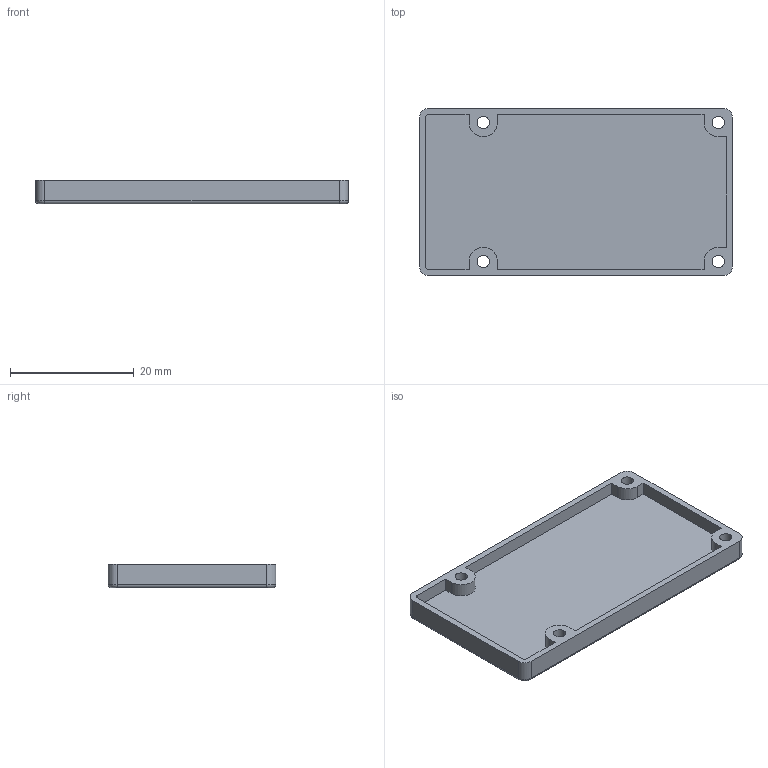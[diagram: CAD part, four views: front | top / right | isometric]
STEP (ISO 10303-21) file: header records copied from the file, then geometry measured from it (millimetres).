
FILE_DESCRIPTION (( 'STEP AP203' ), '1' );
FILE_NAME ('H-EXT1.STEP', '2023-07-04T11:35:07', ( 'shan123' ), ( 'Razer' ), 'SwSTEP 2.0', 'SolidWorks 2018', '' );
FILE_SCHEMA (( 'CONFIG_CONTROL_DESIGN' ));
Length unit declared in the file: millimetre
Products named in the file (1): H-EXT1
Bounding box: 50.6 x 27.1 x 3.8 mm (x, y, z)
Volume: 2579 mm3; surface area: 3698.8 mm2
Topology: 1 solids, 1 shells, 47 faces, 124 edges, 80 vertices
Faces by surface type: cylinder 22, plane 21, torus 4
Entity records: 1555 total; most frequent: DIRECTION 268, CARTESIAN_POINT 252, ORIENTED_EDGE 248, EDGE_CURVE 124, AXIS2_PLACEMENT_3D 96, VERTEX_POINT 80, VECTOR 76, LINE 76
